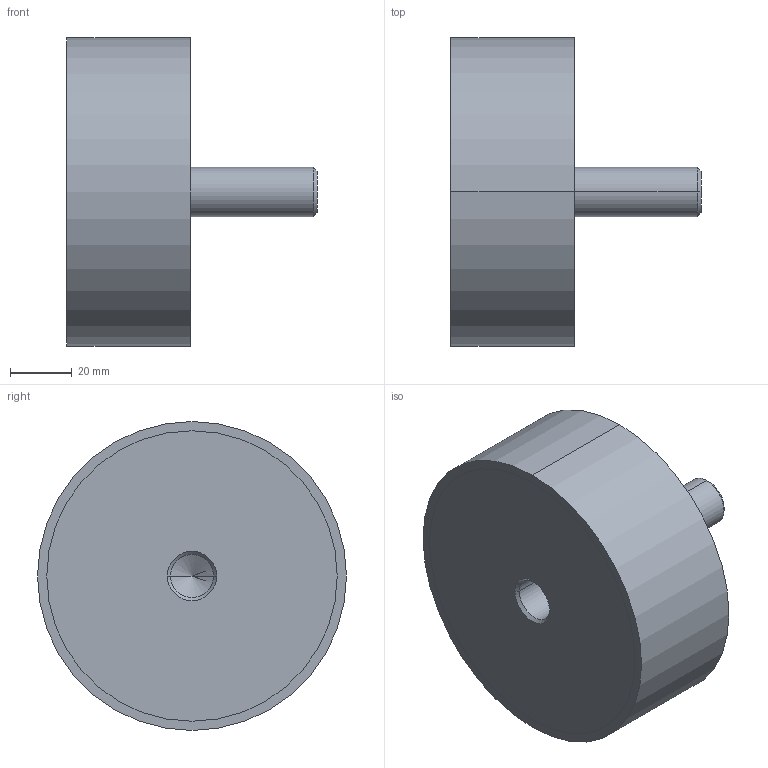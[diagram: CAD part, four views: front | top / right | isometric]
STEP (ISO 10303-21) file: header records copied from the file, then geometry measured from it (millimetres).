
FILE_DESCRIPTION (( 'STEP AP214' ), '1' );
FILE_NAME ('351-100-40-M16-ES-55.step', '2025-07-23T09:51:48', ( '' ), ( '' ), 'SwSTEP 2.0', 'SolidWorks 2022', '' );
FILE_SCHEMA (( 'AUTOMOTIVE_DESIGN' ));
Length unit declared in the file: millimetre
Products named in the file (1): 351-100-40-M16-ES-55
Bounding box: 81 x 100 x 100 mm (x, y, z)
Volume: 319314.9 mm3; surface area: 31069.9 mm2
Topology: 1 solids, 1 shells, 24 faces, 48 edges, 29 vertices
Faces by surface type: cylinder 12, cone 6, plane 6
Entity records: 740 total; most frequent: DIRECTION 124, CARTESIAN_POINT 100, ORIENTED_EDGE 92, AXIS2_PLACEMENT_3D 53, EDGE_CURVE 46, EDGE_LOOP 29, VERTEX_POINT 29, CIRCLE 28
